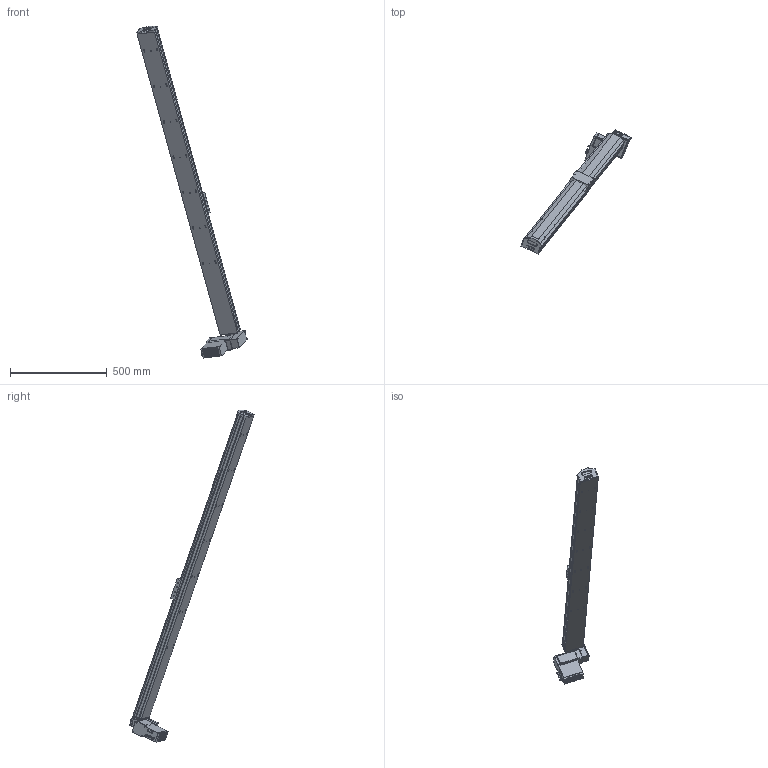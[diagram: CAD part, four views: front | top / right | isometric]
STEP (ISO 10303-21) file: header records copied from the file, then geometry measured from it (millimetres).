
FILE_DESCRIPTION (( 'STEP AP203' ), '1' );
FILE_NAME ('S10 CBH LU S1700.STEP', '2012-10-01T07:01:49', ( '' ), ( '' ), 'SwSTEP 2.0', 'SolidWorks 2010', '' );
FILE_SCHEMA (( 'CONFIG_CONTROL_DESIGN' ));
Length unit declared in the file: millimetre
Products named in the file (14): plaque de bout s10_Default; Vis M5 L16-2_Default_1; vis M5 L12_Default; MOTEUR GMI 61 ; axe 1700; S10 CBH LU S1700; cache t皻e axe_Default; cache t皻e_Default; Plaque racord_Default; renvoi LH_Default; Cvis M5 L30_Default; vis M5 L5_Default; embout; palette tbh
Assembly tree (24 placements, depth 2):
  S10 CBH LU S1700
    vis M5 L12_Default  x4
    Plaque racord_Default
    embout
    vis M5 L5_Default  x4
    cache t皻e_Default  x2
    Cvis M5 L30_Default  x2
    axe 1700
    cache t皻e axe_Default
    Vis M5 L16-2_Default_1  x4
    palette tbh
    renvoi LH_Default
    MOTEUR GMI 61 
    plaque de bout s10_Default
Bounding box: 572.44 x 643.95 x 1715.71 mm (x, y, z)
Volume: 9996994.9 mm3; surface area: 1022101.2 mm2
Topology: 24 solids, 24 shells, 1089 faces, 2650 edges, 1642 vertices
Faces by surface type: plane 542, cylinder 398, cone 102, bspline 40, torus 7
Entity records: 27451 total; most frequent: CARTESIAN_POINT 5116, DIRECTION 4421, ORIENTED_EDGE 4116, EDGE_CURVE 2058, AXIS2_PLACEMENT_3D 1573, VERTEX_POINT 1330, VECTOR 1275, LINE 1275
